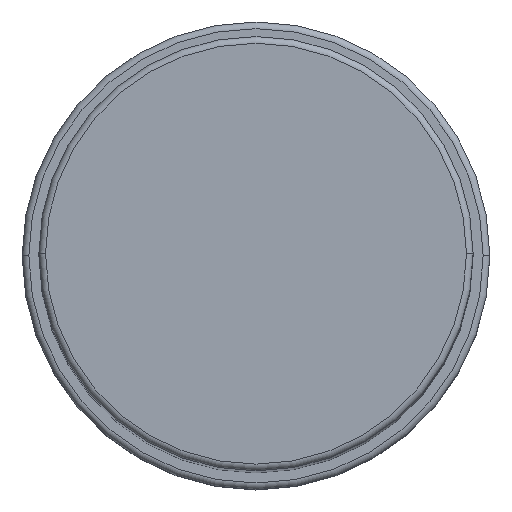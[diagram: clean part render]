
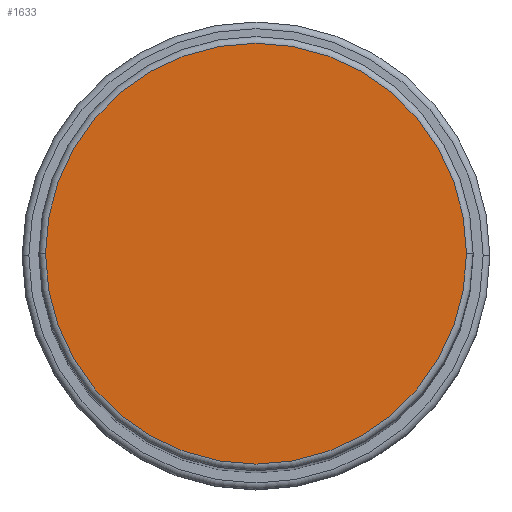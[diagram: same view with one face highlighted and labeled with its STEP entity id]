
A CAD part, top view. The second image highlights one B-rep face of the part: STEP entity #1633.
In plain terms, the highlighted planar face has unit normal (0, 0, 1).
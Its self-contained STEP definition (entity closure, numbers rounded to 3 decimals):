
#47 = AXIS2_PLACEMENT_3D ( 'NONE', #910, #924, #577 ) ;
#84 = CARTESIAN_POINT ( 'NONE',  ( 0., 0., 198. ) ) ;
#139 = EDGE_CURVE ( 'NONE', #1285, #289, #1287, .T. ) ;
#170 = DIRECTION ( 'NONE',  ( 0., 0., 1. ) ) ;
#171 = FACE_OUTER_BOUND ( 'NONE', #830, .T. ) ;
#192 = CARTESIAN_POINT ( 'NONE',  ( 31.5, 0., 198. ) ) ;
#198 = AXIS2_PLACEMENT_3D ( 'NONE', #84, #321, #847 ) ;
#223 = EDGE_CURVE ( 'NONE', #289, #1285, #1359, .T. ) ;
#289 = VERTEX_POINT ( 'NONE', #192 ) ;
#321 = DIRECTION ( 'NONE',  ( 0., 0., 1. ) ) ;
#372 = CARTESIAN_POINT ( 'NONE',  ( -31.5, 0., 198. ) ) ;
#577 = DIRECTION ( 'NONE',  ( 1., 0., 0. ) ) ;
#681 = DIRECTION ( 'NONE',  ( 1., 0., 0. ) ) ;
#830 = EDGE_LOOP ( 'NONE', ( #1559, #1551 ) ) ;
#847 = DIRECTION ( 'NONE',  ( 1., 0., 0. ) ) ;
#910 = CARTESIAN_POINT ( 'NONE',  ( 0., 0., 198. ) ) ;
#924 = DIRECTION ( 'NONE',  ( 0., 0., 1. ) ) ;
#1143 = AXIS2_PLACEMENT_3D ( 'NONE', #1183, #170, #681 ) ;
#1183 = CARTESIAN_POINT ( 'NONE',  ( 0., 0., 198. ) ) ;
#1285 = VERTEX_POINT ( 'NONE', #372 ) ;
#1287 = CIRCLE ( 'NONE', #1143, 31.5 ) ;
#1359 = CIRCLE ( 'NONE', #47, 31.5 ) ;
#1469 = PLANE ( 'NONE',  #198 ) ;
#1551 = ORIENTED_EDGE ( 'NONE', *, *, #139, .T. ) ;
#1559 = ORIENTED_EDGE ( 'NONE', *, *, #223, .T. ) ;
#1633 = ADVANCED_FACE ( 'NONE', ( #171 ), #1469, .T. ) ;
